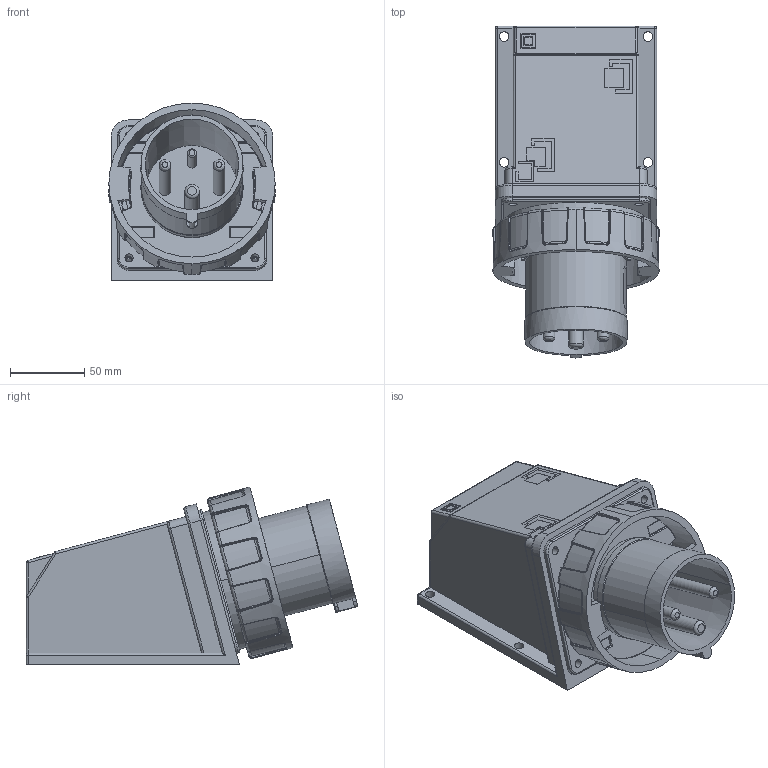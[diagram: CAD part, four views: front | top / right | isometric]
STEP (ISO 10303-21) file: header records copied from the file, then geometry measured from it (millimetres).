
FILE_DESCRIPTION(('FreeCAD Model'),'2;1');
FILE_NAME('Open CASCADE Shape Model','2026-02-04T11:08:58',(''),(''), 'Open CASCADE STEP processor 7.8','FreeCAD','Unknown');
FILE_SCHEMA(('AUTOMOTIVE_DESIGN { 1 0 10303 214 1 1 1 1 }'));
Length unit declared in the file: millimetre
Products named in the file (12): TL3M63632; Proteção terminais; Base externa; Tomada; Pino Neutro; Pino Terra; Pino L1; Pino guia; Base interna; Terminais; Estrutura corpo; Encaixe tomada
Assembly tree (11 placements, depth 2):
  TL3M63632
    Proteção terminais
    Base externa
    Tomada
    Pino Neutro
    Pino Terra
    Pino L1
    Pino guia
    Base interna
    Terminais
    Estrutura corpo
    Encaixe tomada
Bounding box: 112.2 x 224.04 x 120.02 mm (x, y, z)
Volume: 576102.9 mm3; surface area: 264361.8 mm2
Topology: 11 solids, 11 shells, 1537 faces, 4018 edges, 2557 vertices
Faces by surface type: plane 740, cylinder 367, bspline 270, torus 92, cone 50, sphere 16, extrusion 2
Full cylindrical faces by diameter (mm): 5.5 x4, 6 x1, 6.5 x4, 8 x2, 10 x1, 11.5 x2, 14.5 x1, 40.5 x1, 74 x1, 78 x1, 89 x1
Entity records: 82768 total; most frequent: CARTESIAN_POINT 47122, ORIENTED_EDGE 7988, DIRECTION 6353, EDGE_CURVE 3994, VERTEX_POINT 2557, AXIS2_PLACEMENT_3D 2182, VECTOR 1989, LINE 1987
